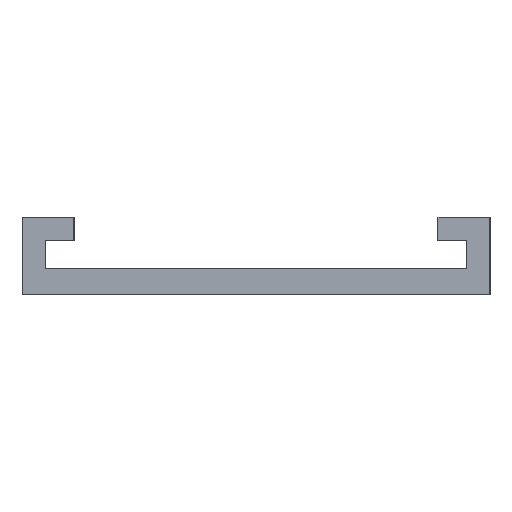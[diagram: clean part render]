
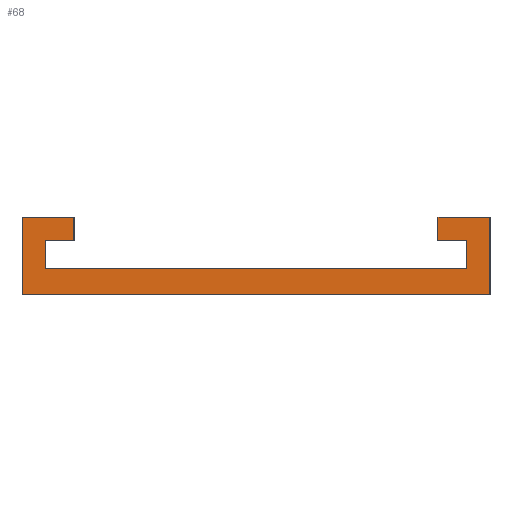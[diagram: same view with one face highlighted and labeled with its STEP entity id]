
A CAD part, left-side view. The second image highlights one B-rep face of the part: STEP entity #68.
In plain terms, the highlighted planar face has unit normal (-1, 0, 0).
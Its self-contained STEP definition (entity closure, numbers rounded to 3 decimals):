
#11 = CARTESIAN_POINT ( 'NONE',  ( 0., 40.5, 5. ) ) ;
#13 = VECTOR ( 'NONE', #358, 1000. ) ;
#17 = CARTESIAN_POINT ( 'NONE',  ( 0., 35., 10.5 ) ) ;
#18 = LINE ( 'NONE', #206, #320 ) ;
#19 = EDGE_CURVE ( 'NONE', #286, #328, #41, .T. ) ;
#21 = CARTESIAN_POINT ( 'NONE',  ( 0., -35., 10.5 ) ) ;
#29 = LINE ( 'NONE', #145, #230 ) ;
#41 = LINE ( 'NONE', #17, #217 ) ;
#47 = VECTOR ( 'NONE', #313, 1000. ) ;
#48 = ORIENTED_EDGE ( 'NONE', *, *, #366, .F. ) ;
#52 = CARTESIAN_POINT ( 'NONE',  ( 0., -45., 15. ) ) ;
#56 = LINE ( 'NONE', #227, #137 ) ;
#61 = DIRECTION ( 'NONE',  ( 0., 1., 0. ) ) ;
#68 = ADVANCED_FACE ( 'NONE', ( #368 ), #260, .F. ) ;
#72 = VECTOR ( 'NONE', #461, 1000. ) ;
#79 = ORIENTED_EDGE ( 'NONE', *, *, #266, .F. ) ;
#81 = VERTEX_POINT ( 'NONE', #175 ) ;
#86 = ORIENTED_EDGE ( 'NONE', *, *, #466, .F. ) ;
#90 = ORIENTED_EDGE ( 'NONE', *, *, #19, .F. ) ;
#91 = DIRECTION ( 'NONE',  ( 0., 1., 0. ) ) ;
#95 = CARTESIAN_POINT ( 'NONE',  ( 0., -45., 15. ) ) ;
#98 = EDGE_CURVE ( 'NONE', #376, #375, #187, .T. ) ;
#100 = DIRECTION ( 'NONE',  ( 0., -1., 0. ) ) ;
#101 = CARTESIAN_POINT ( 'NONE',  ( 0., 40.5, 10.5 ) ) ;
#108 = VERTEX_POINT ( 'NONE', #308 ) ;
#110 = AXIS2_PLACEMENT_3D ( 'NONE', #124, #271, #131 ) ;
#114 = VECTOR ( 'NONE', #61, 1000. ) ;
#124 = CARTESIAN_POINT ( 'NONE',  ( 0., 0., 0. ) ) ;
#126 = CARTESIAN_POINT ( 'NONE',  ( 0., -40.5, 5. ) ) ;
#131 = DIRECTION ( 'NONE',  ( 0., 0., -1. ) ) ;
#137 = VECTOR ( 'NONE', #448, 1000. ) ;
#145 = CARTESIAN_POINT ( 'NONE',  ( 0., 45., 0. ) ) ;
#148 = LINE ( 'NONE', #416, #285 ) ;
#149 = EDGE_CURVE ( 'NONE', #328, #295, #248, .T. ) ;
#151 = ORIENTED_EDGE ( 'NONE', *, *, #442, .F. ) ;
#152 = EDGE_CURVE ( 'NONE', #195, #154, #268, .T. ) ;
#154 = VERTEX_POINT ( 'NONE', #95 ) ;
#157 = ORIENTED_EDGE ( 'NONE', *, *, #323, .F. ) ;
#175 = CARTESIAN_POINT ( 'NONE',  ( 0., -40.5, 5. ) ) ;
#177 = CARTESIAN_POINT ( 'NONE',  ( 0., -35., 10.5 ) ) ;
#183 = VERTEX_POINT ( 'NONE', #241 ) ;
#187 = LINE ( 'NONE', #425, #382 ) ;
#189 = CARTESIAN_POINT ( 'NONE',  ( 0., 35., 10.5 ) ) ;
#195 = VERTEX_POINT ( 'NONE', #343 ) ;
#201 = EDGE_LOOP ( 'NONE', ( #86, #371, #79, #365, #151, #48, #157, #418, #314, #90, #322, #279 ) ) ;
#206 = CARTESIAN_POINT ( 'NONE',  ( 0., 40.5, 5. ) ) ;
#217 = VECTOR ( 'NONE', #91, 1000. ) ;
#227 = CARTESIAN_POINT ( 'NONE',  ( 0., -45., 0. ) ) ;
#230 = VECTOR ( 'NONE', #281, 1000. ) ;
#241 = CARTESIAN_POINT ( 'NONE',  ( 0., 45., 0. ) ) ;
#244 = VECTOR ( 'NONE', #265, 1000. ) ;
#248 = LINE ( 'NONE', #346, #244 ) ;
#251 = EDGE_CURVE ( 'NONE', #108, #183, #56, .T. ) ;
#253 = VECTOR ( 'NONE', #299, 1000. ) ;
#260 = PLANE ( 'NONE',  #110 ) ;
#265 = DIRECTION ( 'NONE',  ( 0., 0., -1. ) ) ;
#266 = EDGE_CURVE ( 'NONE', #154, #108, #360, .T. ) ;
#268 = LINE ( 'NONE', #387, #72 ) ;
#271 = DIRECTION ( 'NONE',  ( 1., 0., 0. ) ) ;
#279 = ORIENTED_EDGE ( 'NONE', *, *, #98, .F. ) ;
#281 = DIRECTION ( 'NONE',  ( 0., 0., 1. ) ) ;
#285 = VECTOR ( 'NONE', #427, 1000. ) ;
#286 = VERTEX_POINT ( 'NONE', #189 ) ;
#295 = VERTEX_POINT ( 'NONE', #11 ) ;
#299 = DIRECTION ( 'NONE',  ( 0., 0., -1. ) ) ;
#307 = CARTESIAN_POINT ( 'NONE',  ( 0., -40.5, 10.5 ) ) ;
#308 = CARTESIAN_POINT ( 'NONE',  ( 0., -45., 0. ) ) ;
#313 = DIRECTION ( 'NONE',  ( 0., 0., 1. ) ) ;
#314 = ORIENTED_EDGE ( 'NONE', *, *, #149, .F. ) ;
#320 = VECTOR ( 'NONE', #459, 1000. ) ;
#322 = ORIENTED_EDGE ( 'NONE', *, *, #377, .F. ) ;
#323 = EDGE_CURVE ( 'NONE', #81, #325, #444, .T. ) ;
#325 = VERTEX_POINT ( 'NONE', #386 ) ;
#328 = VERTEX_POINT ( 'NONE', #101 ) ;
#343 = CARTESIAN_POINT ( 'NONE',  ( 0., -35., 15. ) ) ;
#346 = CARTESIAN_POINT ( 'NONE',  ( 0., 40.5, 10.5 ) ) ;
#358 = DIRECTION ( 'NONE',  ( 0., 0., 1. ) ) ;
#360 = LINE ( 'NONE', #52, #253 ) ;
#365 = ORIENTED_EDGE ( 'NONE', *, *, #152, .F. ) ;
#366 = EDGE_CURVE ( 'NONE', #325, #391, #399, .T. ) ;
#367 = LINE ( 'NONE', #177, #13 ) ;
#368 = FACE_OUTER_BOUND ( 'NONE', #201, .T. ) ;
#371 = ORIENTED_EDGE ( 'NONE', *, *, #251, .F. ) ;
#375 = VERTEX_POINT ( 'NONE', #421 ) ;
#376 = VERTEX_POINT ( 'NONE', #388 ) ;
#377 = EDGE_CURVE ( 'NONE', #375, #286, #148, .T. ) ;
#382 = VECTOR ( 'NONE', #100, 1000. ) ;
#386 = CARTESIAN_POINT ( 'NONE',  ( 0., -40.5, 10.5 ) ) ;
#387 = CARTESIAN_POINT ( 'NONE',  ( 0., -35., 15. ) ) ;
#388 = CARTESIAN_POINT ( 'NONE',  ( 0., 45., 15. ) ) ;
#391 = VERTEX_POINT ( 'NONE', #21 ) ;
#393 = EDGE_CURVE ( 'NONE', #295, #81, #18, .T. ) ;
#399 = LINE ( 'NONE', #307, #114 ) ;
#416 = CARTESIAN_POINT ( 'NONE',  ( 0., 35., 15. ) ) ;
#418 = ORIENTED_EDGE ( 'NONE', *, *, #393, .F. ) ;
#421 = CARTESIAN_POINT ( 'NONE',  ( 0., 35., 15. ) ) ;
#425 = CARTESIAN_POINT ( 'NONE',  ( 0., 45., 15. ) ) ;
#427 = DIRECTION ( 'NONE',  ( 0., 0., -1. ) ) ;
#442 = EDGE_CURVE ( 'NONE', #391, #195, #367, .T. ) ;
#444 = LINE ( 'NONE', #126, #47 ) ;
#448 = DIRECTION ( 'NONE',  ( 0., 1., 0. ) ) ;
#459 = DIRECTION ( 'NONE',  ( 0., -1., 0. ) ) ;
#461 = DIRECTION ( 'NONE',  ( 0., -1., 0. ) ) ;
#466 = EDGE_CURVE ( 'NONE', #183, #376, #29, .T. ) ;
